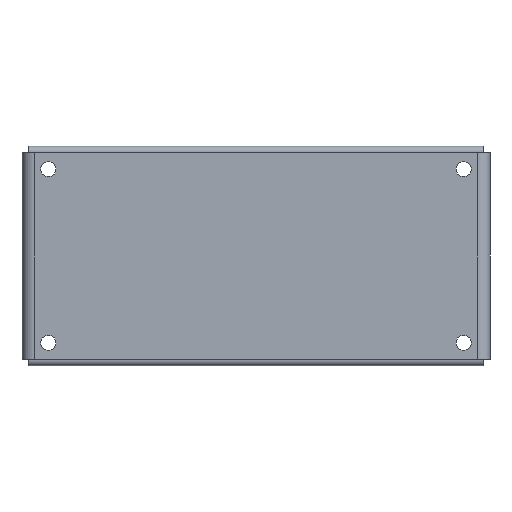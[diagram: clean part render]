
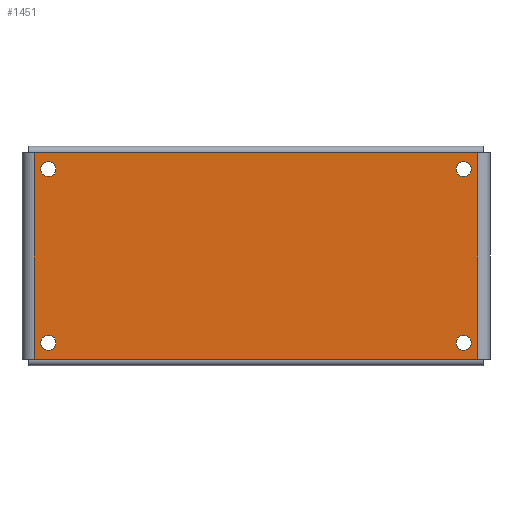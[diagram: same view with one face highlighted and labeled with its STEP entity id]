
A CAD part, left-side view. The second image highlights one B-rep face of the part: STEP entity #1451.
In plain terms, the highlighted planar face has unit normal (-1, 0, 0).
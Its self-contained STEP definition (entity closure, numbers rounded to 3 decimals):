
#12 = VERTEX_POINT ( 'NONE', #294 ) ;
#43 = VERTEX_POINT ( 'NONE', #506 ) ;
#70 = VERTEX_POINT ( 'NONE', #741 ) ;
#77 = VERTEX_POINT ( 'NONE', #807 ) ;
#93 = ORIENTED_EDGE ( 'NONE', *, *, #206, .F. ) ;
#98 = ORIENTED_EDGE ( 'NONE', *, *, #1342, .F. ) ;
#99 = EDGE_CURVE ( 'NONE', #1338, #195, #901, .T. ) ;
#140 = VERTEX_POINT ( 'NONE', #1096 ) ;
#141 = ORIENTED_EDGE ( 'NONE', *, *, #99, .F. ) ;
#151 = ORIENTED_EDGE ( 'NONE', *, *, #1407, .F. ) ;
#180 = ORIENTED_EDGE ( 'NONE', *, *, #1368, .F. ) ;
#195 = VERTEX_POINT ( 'NONE', #724 ) ;
#199 = EDGE_CURVE ( 'NONE', #622, #140, #758, .T. ) ;
#206 = EDGE_CURVE ( 'NONE', #1341, #43, #801, .T. ) ;
#207 = VERTEX_POINT ( 'NONE', #808 ) ;
#216 = EDGE_LOOP ( 'NONE', ( #180, #1180, #677, #141 ) ) ;
#231 = LINE ( 'NONE', #233, #234 ) ;
#233 = CARTESIAN_POINT ( 'NONE',  ( -22., 60.4, -27.4 ) ) ;
#234 = VECTOR ( 'NONE', #235, 1000. ) ;
#235 = DIRECTION ( 'NONE',  ( 0., -1., 0. ) ) ;
#236 = FACE_BOUND ( 'NONE', #1432, .T. ) ;
#237 = FACE_BOUND ( 'NONE', #787, .T. ) ;
#238 = FACE_BOUND ( 'NONE', #1094, .T. ) ;
#239 = FACE_BOUND ( 'NONE', #985, .T. ) ;
#240 = FACE_OUTER_BOUND ( 'NONE', #216, .T. ) ;
#241 = PLANE ( 'NONE',  #242 ) ;
#242 = AXIS2_PLACEMENT_3D ( 'NONE', #243, #244, #245 ) ;
#243 = CARTESIAN_POINT ( 'NONE',  ( -22., 60.4, 29.1 ) ) ;
#244 = DIRECTION ( 'NONE',  ( -1., 0., 0. ) ) ;
#245 = DIRECTION ( 'NONE',  ( 0., 0., 1. ) ) ;
#294 = CARTESIAN_POINT ( 'NONE',  ( -22., -55., 25. ) ) ;
#299 = CIRCLE ( 'NONE', #300, 2. ) ;
#300 = AXIS2_PLACEMENT_3D ( 'NONE', #302, #303, #304 ) ;
#302 = CARTESIAN_POINT ( 'NONE',  ( -22., -55., 23. ) ) ;
#303 = DIRECTION ( 'NONE',  ( -1., 0., 0. ) ) ;
#304 = DIRECTION ( 'NONE',  ( 0., 0., -1. ) ) ;
#318 = EDGE_CURVE ( 'NONE', #70, #195, #231, .T. ) ;
#348 = CARTESIAN_POINT ( 'NONE',  ( -22., 55., 25. ) ) ;
#400 = CARTESIAN_POINT ( 'NONE',  ( -22., 55., -21. ) ) ;
#421 = CIRCLE ( 'NONE', #422, 2. ) ;
#422 = AXIS2_PLACEMENT_3D ( 'NONE', #423, #424, #425 ) ;
#423 = CARTESIAN_POINT ( 'NONE',  ( -22., 55., 23. ) ) ;
#424 = DIRECTION ( 'NONE',  ( -1., 0., 0. ) ) ;
#425 = DIRECTION ( 'NONE',  ( 0., 0., 1. ) ) ;
#482 = ORIENTED_EDGE ( 'NONE', *, *, #199, .F. ) ;
#499 = EDGE_CURVE ( 'NONE', #77, #12, #299, .T. ) ;
#506 = CARTESIAN_POINT ( 'NONE',  ( -22., -55., -21. ) ) ;
#578 = CIRCLE ( 'NONE', #579, 2. ) ;
#579 = AXIS2_PLACEMENT_3D ( 'NONE', #580, #581, #582 ) ;
#580 = CARTESIAN_POINT ( 'NONE',  ( -22., -55., -23. ) ) ;
#581 = DIRECTION ( 'NONE',  ( -1., 0., 0. ) ) ;
#582 = DIRECTION ( 'NONE',  ( 0., 0., 1. ) ) ;
#622 = VERTEX_POINT ( 'NONE', #348 ) ;
#677 = ORIENTED_EDGE ( 'NONE', *, *, #318, .T. ) ;
#724 = CARTESIAN_POINT ( 'NONE',  ( -22., -58.8, -27.4 ) ) ;
#741 = CARTESIAN_POINT ( 'NONE',  ( -22., 58.8, -27.4 ) ) ;
#758 = CIRCLE ( 'NONE', #759, 2. ) ;
#759 = AXIS2_PLACEMENT_3D ( 'NONE', #760, #761, #762 ) ;
#760 = CARTESIAN_POINT ( 'NONE',  ( -22., 55., 23. ) ) ;
#761 = DIRECTION ( 'NONE',  ( -1., 0., 0. ) ) ;
#762 = DIRECTION ( 'NONE',  ( 0., 0., 1. ) ) ;
#787 = EDGE_LOOP ( 'NONE', ( #963, #1298 ) ) ;
#801 = CIRCLE ( 'NONE', #802, 2. ) ;
#802 = AXIS2_PLACEMENT_3D ( 'NONE', #803, #805, #806 ) ;
#803 = CARTESIAN_POINT ( 'NONE',  ( -22., -55., -23. ) ) ;
#805 = DIRECTION ( 'NONE',  ( -1., 0., 0. ) ) ;
#806 = DIRECTION ( 'NONE',  ( 0., 0., 1. ) ) ;
#807 = CARTESIAN_POINT ( 'NONE',  ( -22., -55., 21. ) ) ;
#808 = CARTESIAN_POINT ( 'NONE',  ( -22., 58.8, 27.4 ) ) ;
#897 = LINE ( 'NONE', #898, #899 ) ;
#898 = CARTESIAN_POINT ( 'NONE',  ( -22., 58.8, 27.4 ) ) ;
#899 = VECTOR ( 'NONE', #900, 1000. ) ;
#900 = DIRECTION ( 'NONE',  ( 0., 0., -1. ) ) ;
#901 = LINE ( 'NONE', #902, #903 ) ;
#902 = CARTESIAN_POINT ( 'NONE',  ( -22., -58.8, 27.4 ) ) ;
#903 = VECTOR ( 'NONE', #904, 1000. ) ;
#904 = DIRECTION ( 'NONE',  ( 0., 0., -1. ) ) ;
#905 = CIRCLE ( 'NONE', #906, 2. ) ;
#906 = AXIS2_PLACEMENT_3D ( 'NONE', #907, #908, #909 ) ;
#907 = CARTESIAN_POINT ( 'NONE',  ( -22., -55., 23. ) ) ;
#908 = DIRECTION ( 'NONE',  ( -1., 0., 0. ) ) ;
#909 = DIRECTION ( 'NONE',  ( 0., 0., -1. ) ) ;
#950 = CARTESIAN_POINT ( 'NONE',  ( -22., -58.8, 27.4 ) ) ;
#963 = ORIENTED_EDGE ( 'NONE', *, *, #1316, .F. ) ;
#965 = CARTESIAN_POINT ( 'NONE',  ( -22., -55., -25. ) ) ;
#972 = CIRCLE ( 'NONE', #973, 2. ) ;
#973 = AXIS2_PLACEMENT_3D ( 'NONE', #974, #975, #976 ) ;
#974 = CARTESIAN_POINT ( 'NONE',  ( -22., 55., -23. ) ) ;
#975 = DIRECTION ( 'NONE',  ( -1., 0., 0. ) ) ;
#976 = DIRECTION ( 'NONE',  ( 0., 0., -1. ) ) ;
#985 = EDGE_LOOP ( 'NONE', ( #482, #1371 ) ) ;
#1005 = CIRCLE ( 'NONE', #1006, 2. ) ;
#1006 = AXIS2_PLACEMENT_3D ( 'NONE', #1007, #1008, #1009 ) ;
#1007 = CARTESIAN_POINT ( 'NONE',  ( -22., 55., -23. ) ) ;
#1008 = DIRECTION ( 'NONE',  ( -1., 0., 0. ) ) ;
#1009 = DIRECTION ( 'NONE',  ( 0., 0., -1. ) ) ;
#1022 = CARTESIAN_POINT ( 'NONE',  ( -22., 55., -25. ) ) ;
#1094 = EDGE_LOOP ( 'NONE', ( #98, #1216 ) ) ;
#1096 = CARTESIAN_POINT ( 'NONE',  ( -22., 55., 21. ) ) ;
#1097 = LINE ( 'NONE', #1098, #1099 ) ;
#1098 = CARTESIAN_POINT ( 'NONE',  ( -22., 60.4, 27.4 ) ) ;
#1099 = VECTOR ( 'NONE', #1100, 1000. ) ;
#1100 = DIRECTION ( 'NONE',  ( 0., -1., 0. ) ) ;
#1180 = ORIENTED_EDGE ( 'NONE', *, *, #1315, .T. ) ;
#1216 = ORIENTED_EDGE ( 'NONE', *, *, #1349, .F. ) ;
#1298 = ORIENTED_EDGE ( 'NONE', *, *, #499, .F. ) ;
#1315 = EDGE_CURVE ( 'NONE', #207, #70, #897, .T. ) ;
#1316 = EDGE_CURVE ( 'NONE', #12, #77, #905, .T. ) ;
#1338 = VERTEX_POINT ( 'NONE', #950 ) ;
#1341 = VERTEX_POINT ( 'NONE', #965 ) ;
#1342 = EDGE_CURVE ( 'NONE', #1473, #1352, #972, .T. ) ;
#1349 = EDGE_CURVE ( 'NONE', #1352, #1473, #1005, .T. ) ;
#1352 = VERTEX_POINT ( 'NONE', #1022 ) ;
#1368 = EDGE_CURVE ( 'NONE', #207, #1338, #1097, .T. ) ;
#1371 = ORIENTED_EDGE ( 'NONE', *, *, #1479, .F. ) ;
#1407 = EDGE_CURVE ( 'NONE', #43, #1341, #578, .T. ) ;
#1432 = EDGE_LOOP ( 'NONE', ( #151, #93 ) ) ;
#1451 = ADVANCED_FACE ( 'NONE', ( #236, #237, #238, #239, #240 ), #241, .T. ) ;
#1473 = VERTEX_POINT ( 'NONE', #400 ) ;
#1479 = EDGE_CURVE ( 'NONE', #140, #622, #421, .T. ) ;
